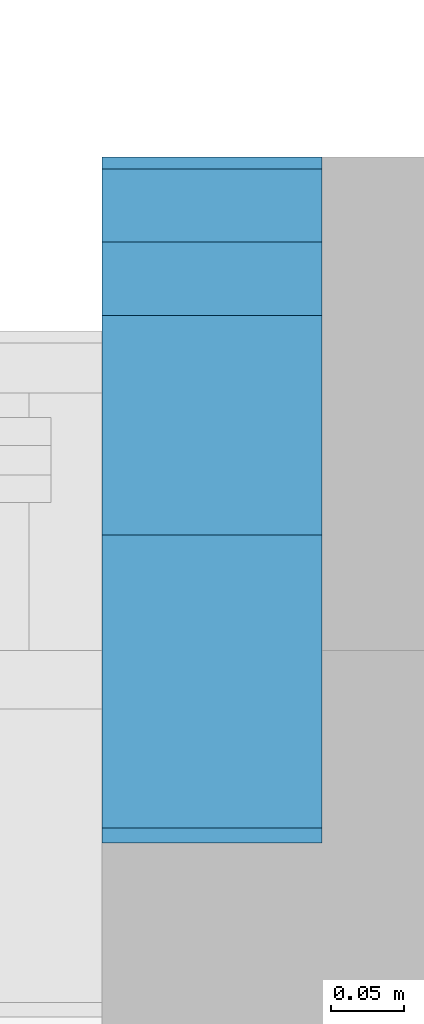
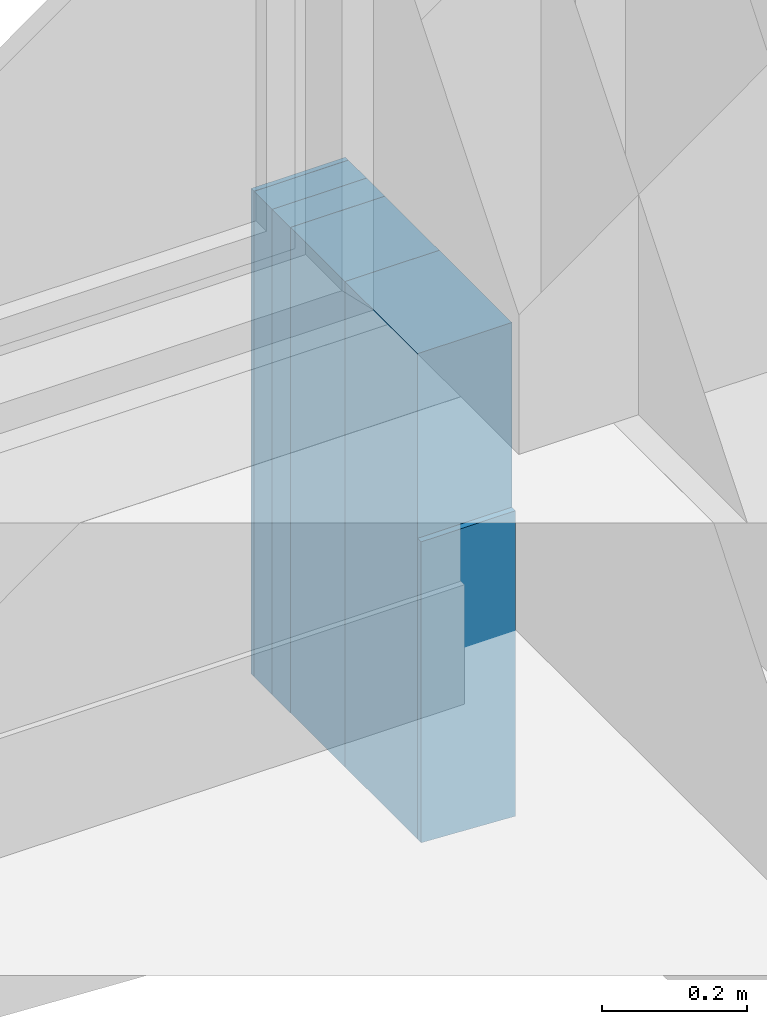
# One storey, part 74 of 89: 6 building element parts, 1 element without a shape of its own.
"""IFC2X3 building model written with IfcOpenShell, lengths in millimetres."""

from ifc_helpers import new_model, entity, si_unit, converted_unit, derived_unit, money_unit, direction, frame, origin_with_axes, place, context, subcontext, project, spatial, polyline, outline, extrude, boolean, faceted_brep, material, type_object, element, aggregate, save


model = new_model("IFC2X3")

# Units and contexts
model_context = context("Model", 3, precision=0.01, world=origin_with_axes(), true_north=direction((0.0, 1.0)))
body_context = subcontext(model_context, "Body", "Model", "MODEL_VIEW")
ifc_project = project(units=[si_unit("LENGTHUNIT", "METRE", prefix="MILLI"), si_unit("AREAUNIT", "SQUARE_METRE"), si_unit("VOLUMEUNIT", "CUBIC_METRE"), converted_unit("PLANEANGLEUNIT", "DEGREE", entity("IfcPlaneAngleMeasure", 0.0174532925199), si_unit("PLANEANGLEUNIT", "RADIAN"), dimensions=[0, 0, 0, 0, 0, 0, 0]), si_unit("SOLIDANGLEUNIT", "STERADIAN"), money_unit("EUR"), converted_unit("TIMEUNIT", "Year", entity("IfcTimeMeasure", 31556926.0), si_unit("TIMEUNIT", "SECOND"), dimensions=[0, 0, 1, 0, 0, 0, 0]), si_unit("MASSUNIT", "GRAM", prefix="KILO"), si_unit("THERMODYNAMICTEMPERATUREUNIT", "DEGREE_CELSIUS"), si_unit("LUMINOUSINTENSITYUNIT", "LUMEN"), si_unit("ENERGYUNIT", "JOULE", prefix="MEGA"), derived_unit("THERMALCONDUCTANCEUNIT", [(si_unit("POWERUNIT", "WATT"), 1), (si_unit("LENGTHUNIT", "METRE"), -1), (si_unit("THERMODYNAMICTEMPERATUREUNIT", "KELVIN"), -1)]), derived_unit("SPECIFICHEATCAPACITYUNIT", [(si_unit("ENERGYUNIT", "JOULE"), 1), (si_unit("MASSUNIT", "GRAM", prefix="KILO"), -1), (si_unit("THERMODYNAMICTEMPERATUREUNIT", "KELVIN"), -1)]), derived_unit("MASSDENSITYUNIT", [(si_unit("MASSUNIT", "GRAM", prefix="KILO"), 1), (si_unit("VOLUMEUNIT", "CUBIC_METRE"), -1)])], contexts=[model_context])

# Site, building, storey
site_placement = place(None, origin_with_axes())
site = spatial("IfcSite", under=ifc_project, at=site_placement, Name="Puškini 31, Narva", CompositionType="ELEMENT")
building_placement = place(site_placement, origin_with_axes())
building = spatial("IfcBuilding", under=site, at=building_placement, Name="Narva Riigigümnaasium", CompositionType="ELEMENT")
storey_placement = place(building_placement, frame((0.0, 0.0, -3300.0), z_axis=(0.0, 0.0, 1.0), x_axis=(1.0, 0.0, 0.0)))
storey = spatial("IfcBuildingStorey", under=building, at=storey_placement, Name="1.korrus -3.3", CompositionType="ELEMENT", Elevation=-3300.0)

# Wall, building element parts
wall_type = type_object("IfcWallType", Name="G-VS-01 468", PredefinedType="NOTDEFINED")
wall_placement = place(storey_placement, frame((54200.0000017, 254308.805854, -849.33771919), z_axis=(0.0, 0.0, 1.0), x_axis=(-1.0, 0.0, 0.0)))
wall = element("IfcWall", 1, at=wall_placement, inside=storey, type_object=wall_type, Name="Välissein")
ifc_material_1 = material(Name="Salto-siseviimistlus-seinad")
building_element_part_1_placement = place(wall_placement, origin_with_axes())
building_element_part_1 = element("IfcBuildingElementPart", 2, at=building_element_part_1_placement, material=ifc_material_1, Name="Salto-siseviimistlus-seinad", context=body_context, shape_type="CSG", body=[
    boolean("DIFFERENCE", boolean("DIFFERENCE", boolean("DIFFERENCE", boolean("DIFFERENCE", boolean("DIFFERENCE", boolean("DIFFERENCE", extrude(outline(polyline([(-257.999999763, 200.0), (399.99999993, 200.0), (399.99999993, 210.0), (-257.999999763, 210.0), (-257.999999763, 200.0)])), origin_with_axes(), (0.0, 0.0, 1.0), 849.33771919), faceted_brep([(399.99999993, 200.0, 33.8339195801), (250.000000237, 200.0, 26.1443924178), (250.000000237, 200.0, 539.33771919), (399.99999993, 200.0, 539.33771919), (399.99999993, 200.0, 849.33771919), (-257.999999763, 200.0, 849.33771919), (-257.999999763, 200.0, 0.0), (399.99999993, 200.0, 0.0), (399.99999993, 210.0, 33.8339195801), (250.000000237, 210.0, 26.1443924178), (250.000000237, 210.0, 539.33771919), (399.99999993, 210.0, 539.33771919), (399.99999993, 210.0, 849.33771919), (-257.999999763, 210.0, 849.33771919), (-257.999999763, 210.0, 0.0), (399.99999993, 210.0, 0.0)], [[[0, 1, 2, 3, 4, 5, 6, 7]], [[1, 0, 8, 9]], [[9, 10, 2, 1]], [[3, 2, 10, 11]], [[3, 11, 12, 4]], [[13, 5, 4, 12]], [[13, 14, 6, 5]], [[7, 6, 14, 15]], [[8, 0, 7, 15]], [[9, 8, 15, 14, 13, 12, 11, 10]]])), faceted_brep([(399.99999993, 0.0, 33.8339195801), (250.000000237, 0.0, 26.1443924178), (250.000000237, 0.0, 849.33771919), (-257.999999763, 0.0, 849.33771919), (-257.999999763, 0.0, 0.0), (399.99999993, 0.0, 0.0), (399.99999993, 200.0, 33.8339195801), (250.000000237, 200.0, 26.1443924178), (250.000000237, 200.0, 849.33771919), (-257.999999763, 200.0, 849.33771919), (-257.999999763, 200.0, 0.0), (399.99999993, 200.0, 0.0)], [[[0, 1, 2, 3, 4, 5]], [[1, 0, 6, 7]], [[8, 2, 1, 7]], [[2, 8, 9, 3]], [[9, 10, 4, 3]], [[5, 4, 10, 11]], [[6, 0, 5, 11]], [[7, 6, 11, 10, 9, 8]]])), faceted_brep([(399.99999993, -150.0, 33.8339195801), (250.000000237, -150.0, 26.1443924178), (250.000000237, -150.0, 849.33771919), (-257.999999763, -150.0, 849.33771919), (-257.999999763, -150.0, 0.0), (399.99999993, -150.0, 0.0), (399.99999993, 0.0, 33.8339195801), (250.000000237, 0.0, 26.1443924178), (250.000000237, 0.0, 849.33771919), (-257.999999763, 0.0, 849.33771919), (-257.999999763, 0.0, 0.0), (399.99999993, 0.0, 0.0)], [[[0, 1, 2, 3, 4, 5]], [[1, 0, 6, 7]], [[8, 2, 1, 7]], [[2, 8, 9, 3]], [[9, 10, 4, 3]], [[5, 4, 10, 11]], [[6, 0, 5, 11]], [[7, 6, 11, 10, 9, 8]]])), faceted_brep([(399.99999993, -200.0, 33.8339195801), (250.000000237, -200.0, 26.1443924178), (250.000000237, -200.0, 849.33771919), (-257.999999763, -200.0, 849.33771919), (-257.999999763, -200.0, 0.0), (399.99999993, -200.0, 0.0), (399.99999993, -150.0, 33.8339195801), (250.000000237, -150.0, 26.1443924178), (250.000000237, -150.0, 849.33771919), (-257.999999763, -150.0, 849.33771919), (-257.999999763, -150.0, 0.0), (399.99999993, -150.0, 0.0)], [[[0, 1, 2, 3, 4, 5]], [[1, 0, 6, 7]], [[8, 2, 1, 7]], [[2, 8, 9, 3]], [[9, 10, 4, 3]], [[5, 4, 10, 11]], [[6, 0, 5, 11]], [[7, 6, 11, 10, 9, 8]]])), faceted_brep([(399.99999993, -250.0, 33.8339195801), (250.000000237, -250.0, 26.1443924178), (250.000000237, -250.0, 849.33771919), (-257.999999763, -250.0, 849.33771919), (-257.999999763, -250.0, 0.0), (399.99999993, -250.0, 0.0), (399.99999993, -200.0, 33.8339195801), (250.000000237, -200.0, 26.1443924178), (250.000000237, -200.0, 849.33771919), (-257.999999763, -200.0, 849.33771919), (-257.999999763, -200.0, 0.0), (399.99999993, -200.0, 0.0)], [[[0, 1, 2, 3, 4, 5]], [[1, 0, 6, 7]], [[8, 2, 1, 7]], [[2, 8, 9, 3]], [[9, 10, 4, 3]], [[5, 4, 10, 11]], [[6, 0, 5, 11]], [[7, 6, 11, 10, 9, 8]]])), faceted_brep([(399.99999993, -258.0, 33.8339195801), (250.000000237, -258.0, 26.1443924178), (250.000000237, -258.0, 849.33771919), (-257.999999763, -258.0, 849.33771919), (-257.999999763, -258.0, 0.0), (399.99999993, -258.0, 0.0), (399.99999993, -250.0, 33.8339195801), (250.000000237, -250.0, 26.1443924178), (250.000000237, -250.0, 849.33771919), (-257.999999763, -250.0, 849.33771919), (-257.999999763, -250.0, 0.0), (399.99999993, -250.0, 0.0)], [[[0, 1, 2, 3, 4, 5]], [[1, 0, 6, 7]], [[8, 2, 1, 7]], [[2, 8, 9, 3]], [[9, 10, 4, 3]], [[5, 4, 10, 11]], [[6, 0, 5, 11]], [[7, 6, 11, 10, 9, 8]]])),
])
ifc_material_2 = material(Name="Betoon element")
building_element_part_2_placement = place(wall_placement, origin_with_axes())
building_element_part_2 = element("IfcBuildingElementPart", 3, at=building_element_part_2_placement, material=ifc_material_2, Name="Betoon element", context=body_context, shape_type="CSG", body=[
    boolean("DIFFERENCE", boolean("DIFFERENCE", boolean("DIFFERENCE", boolean("DIFFERENCE", boolean("DIFFERENCE", boolean("DIFFERENCE", extrude(outline(polyline([(-257.999999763, 0.0), (399.99999993, 0.0), (399.99999993, 200.0), (-257.999999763, 200.0), (-257.999999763, 0.0)])), origin_with_axes(), (0.0, 0.0, 1.0), 849.33771919), faceted_brep([(399.99999993, 200.0, 33.8339195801), (250.000000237, 200.0, 26.1443924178), (250.000000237, 200.0, 539.33771919), (399.99999993, 200.0, 539.33771919), (399.99999993, 200.0, 849.33771919), (-257.999999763, 200.0, 849.33771919), (-257.999999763, 200.0, 0.0), (399.99999993, 200.0, 0.0), (399.99999993, 210.0, 33.8339195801), (250.000000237, 210.0, 26.1443924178), (250.000000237, 210.0, 539.33771919), (399.99999993, 210.0, 539.33771919), (399.99999993, 210.0, 849.33771919), (-257.999999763, 210.0, 849.33771919), (-257.999999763, 210.0, 0.0), (399.99999993, 210.0, 0.0)], [[[0, 1, 2, 3, 4, 5, 6, 7]], [[1, 0, 8, 9]], [[9, 10, 2, 1]], [[3, 2, 10, 11]], [[3, 11, 12, 4]], [[13, 5, 4, 12]], [[13, 14, 6, 5]], [[7, 6, 14, 15]], [[8, 0, 7, 15]], [[9, 8, 15, 14, 13, 12, 11, 10]]])), faceted_brep([(399.99999993, 0.0, 33.8339195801), (250.000000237, 0.0, 26.1443924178), (250.000000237, 0.0, 849.33771919), (-257.999999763, 0.0, 849.33771919), (-257.999999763, 0.0, 0.0), (399.99999993, 0.0, 0.0), (399.99999993, 200.0, 33.8339195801), (250.000000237, 200.0, 26.1443924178), (250.000000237, 200.0, 849.33771919), (-257.999999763, 200.0, 849.33771919), (-257.999999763, 200.0, 0.0), (399.99999993, 200.0, 0.0)], [[[0, 1, 2, 3, 4, 5]], [[1, 0, 6, 7]], [[8, 2, 1, 7]], [[2, 8, 9, 3]], [[9, 10, 4, 3]], [[5, 4, 10, 11]], [[6, 0, 5, 11]], [[7, 6, 11, 10, 9, 8]]])), faceted_brep([(399.99999993, -150.0, 33.8339195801), (250.000000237, -150.0, 26.1443924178), (250.000000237, -150.0, 849.33771919), (-257.999999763, -150.0, 849.33771919), (-257.999999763, -150.0, 0.0), (399.99999993, -150.0, 0.0), (399.99999993, 0.0, 33.8339195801), (250.000000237, 0.0, 26.1443924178), (250.000000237, 0.0, 849.33771919), (-257.999999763, 0.0, 849.33771919), (-257.999999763, 0.0, 0.0), (399.99999993, 0.0, 0.0)], [[[0, 1, 2, 3, 4, 5]], [[1, 0, 6, 7]], [[8, 2, 1, 7]], [[2, 8, 9, 3]], [[9, 10, 4, 3]], [[5, 4, 10, 11]], [[6, 0, 5, 11]], [[7, 6, 11, 10, 9, 8]]])), faceted_brep([(399.99999993, -200.0, 33.8339195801), (250.000000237, -200.0, 26.1443924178), (250.000000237, -200.0, 849.33771919), (-257.999999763, -200.0, 849.33771919), (-257.999999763, -200.0, 0.0), (399.99999993, -200.0, 0.0), (399.99999993, -150.0, 33.8339195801), (250.000000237, -150.0, 26.1443924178), (250.000000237, -150.0, 849.33771919), (-257.999999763, -150.0, 849.33771919), (-257.999999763, -150.0, 0.0), (399.99999993, -150.0, 0.0)], [[[0, 1, 2, 3, 4, 5]], [[1, 0, 6, 7]], [[8, 2, 1, 7]], [[2, 8, 9, 3]], [[9, 10, 4, 3]], [[5, 4, 10, 11]], [[6, 0, 5, 11]], [[7, 6, 11, 10, 9, 8]]])), faceted_brep([(399.99999993, -250.0, 33.8339195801), (250.000000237, -250.0, 26.1443924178), (250.000000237, -250.0, 849.33771919), (-257.999999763, -250.0, 849.33771919), (-257.999999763, -250.0, 0.0), (399.99999993, -250.0, 0.0), (399.99999993, -200.0, 33.8339195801), (250.000000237, -200.0, 26.1443924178), (250.000000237, -200.0, 849.33771919), (-257.999999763, -200.0, 849.33771919), (-257.999999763, -200.0, 0.0), (399.99999993, -200.0, 0.0)], [[[0, 1, 2, 3, 4, 5]], [[1, 0, 6, 7]], [[8, 2, 1, 7]], [[2, 8, 9, 3]], [[9, 10, 4, 3]], [[5, 4, 10, 11]], [[6, 0, 5, 11]], [[7, 6, 11, 10, 9, 8]]])), faceted_brep([(399.99999993, -258.0, 33.8339195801), (250.000000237, -258.0, 26.1443924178), (250.000000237, -258.0, 849.33771919), (-257.999999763, -258.0, 849.33771919), (-257.999999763, -258.0, 0.0), (399.99999993, -258.0, 0.0), (399.99999993, -250.0, 33.8339195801), (250.000000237, -250.0, 26.1443924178), (250.000000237, -250.0, 849.33771919), (-257.999999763, -250.0, 849.33771919), (-257.999999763, -250.0, 0.0), (399.99999993, -250.0, 0.0)], [[[0, 1, 2, 3, 4, 5]], [[1, 0, 6, 7]], [[8, 2, 1, 7]], [[2, 8, 9, 3]], [[9, 10, 4, 3]], [[5, 4, 10, 11]], [[6, 0, 5, 11]], [[7, 6, 11, 10, 9, 8]]])),
])
ifc_material_3 = material(Name="Salto-PIR soojustus")
building_element_part_3_placement = place(wall_placement, origin_with_axes())
building_element_part_3 = element("IfcBuildingElementPart", 4, at=building_element_part_3_placement, material=ifc_material_3, Name="Salto-PIR soojustus", context=body_context, shape_type="CSG", body=[
    boolean("DIFFERENCE", boolean("DIFFERENCE", boolean("DIFFERENCE", boolean("DIFFERENCE", boolean("DIFFERENCE", boolean("DIFFERENCE", extrude(outline(polyline([(-257.999999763, -150.0), (399.99999993, -150.0), (399.99999993, 0.0), (-257.999999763, 0.0), (-257.999999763, -150.0)])), origin_with_axes(), (0.0, 0.0, 1.0), 849.33771919), faceted_brep([(399.99999993, 200.0, 33.8339195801), (250.000000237, 200.0, 26.1443924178), (250.000000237, 200.0, 539.33771919), (399.99999993, 200.0, 539.33771919), (399.99999993, 200.0, 849.33771919), (-257.999999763, 200.0, 849.33771919), (-257.999999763, 200.0, 0.0), (399.99999993, 200.0, 0.0), (399.99999993, 210.0, 33.8339195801), (250.000000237, 210.0, 26.1443924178), (250.000000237, 210.0, 539.33771919), (399.99999993, 210.0, 539.33771919), (399.99999993, 210.0, 849.33771919), (-257.999999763, 210.0, 849.33771919), (-257.999999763, 210.0, 0.0), (399.99999993, 210.0, 0.0)], [[[0, 1, 2, 3, 4, 5, 6, 7]], [[1, 0, 8, 9]], [[9, 10, 2, 1]], [[3, 2, 10, 11]], [[3, 11, 12, 4]], [[13, 5, 4, 12]], [[13, 14, 6, 5]], [[7, 6, 14, 15]], [[8, 0, 7, 15]], [[9, 8, 15, 14, 13, 12, 11, 10]]])), faceted_brep([(399.99999993, 0.0, 33.8339195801), (250.000000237, 0.0, 26.1443924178), (250.000000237, 0.0, 849.33771919), (-257.999999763, 0.0, 849.33771919), (-257.999999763, 0.0, 0.0), (399.99999993, 0.0, 0.0), (399.99999993, 200.0, 33.8339195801), (250.000000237, 200.0, 26.1443924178), (250.000000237, 200.0, 849.33771919), (-257.999999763, 200.0, 849.33771919), (-257.999999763, 200.0, 0.0), (399.99999993, 200.0, 0.0)], [[[0, 1, 2, 3, 4, 5]], [[1, 0, 6, 7]], [[8, 2, 1, 7]], [[2, 8, 9, 3]], [[9, 10, 4, 3]], [[5, 4, 10, 11]], [[6, 0, 5, 11]], [[7, 6, 11, 10, 9, 8]]])), faceted_brep([(399.99999993, -150.0, 33.8339195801), (250.000000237, -150.0, 26.1443924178), (250.000000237, -150.0, 849.33771919), (-257.999999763, -150.0, 849.33771919), (-257.999999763, -150.0, 0.0), (399.99999993, -150.0, 0.0), (399.99999993, 0.0, 33.8339195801), (250.000000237, 0.0, 26.1443924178), (250.000000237, 0.0, 849.33771919), (-257.999999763, 0.0, 849.33771919), (-257.999999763, 0.0, 0.0), (399.99999993, 0.0, 0.0)], [[[0, 1, 2, 3, 4, 5]], [[1, 0, 6, 7]], [[8, 2, 1, 7]], [[2, 8, 9, 3]], [[9, 10, 4, 3]], [[5, 4, 10, 11]], [[6, 0, 5, 11]], [[7, 6, 11, 10, 9, 8]]])), faceted_brep([(399.99999993, -200.0, 33.8339195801), (250.000000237, -200.0, 26.1443924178), (250.000000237, -200.0, 849.33771919), (-257.999999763, -200.0, 849.33771919), (-257.999999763, -200.0, 0.0), (399.99999993, -200.0, 0.0), (399.99999993, -150.0, 33.8339195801), (250.000000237, -150.0, 26.1443924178), (250.000000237, -150.0, 849.33771919), (-257.999999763, -150.0, 849.33771919), (-257.999999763, -150.0, 0.0), (399.99999993, -150.0, 0.0)], [[[0, 1, 2, 3, 4, 5]], [[1, 0, 6, 7]], [[8, 2, 1, 7]], [[2, 8, 9, 3]], [[9, 10, 4, 3]], [[5, 4, 10, 11]], [[6, 0, 5, 11]], [[7, 6, 11, 10, 9, 8]]])), faceted_brep([(399.99999993, -250.0, 33.8339195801), (250.000000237, -250.0, 26.1443924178), (250.000000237, -250.0, 849.33771919), (-257.999999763, -250.0, 849.33771919), (-257.999999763, -250.0, 0.0), (399.99999993, -250.0, 0.0), (399.99999993, -200.0, 33.8339195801), (250.000000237, -200.0, 26.1443924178), (250.000000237, -200.0, 849.33771919), (-257.999999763, -200.0, 849.33771919), (-257.999999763, -200.0, 0.0), (399.99999993, -200.0, 0.0)], [[[0, 1, 2, 3, 4, 5]], [[1, 0, 6, 7]], [[8, 2, 1, 7]], [[2, 8, 9, 3]], [[9, 10, 4, 3]], [[5, 4, 10, 11]], [[6, 0, 5, 11]], [[7, 6, 11, 10, 9, 8]]])), faceted_brep([(399.99999993, -258.0, 33.8339195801), (250.000000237, -258.0, 26.1443924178), (250.000000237, -258.0, 849.33771919), (-257.999999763, -258.0, 849.33771919), (-257.999999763, -258.0, 0.0), (399.99999993, -258.0, 0.0), (399.99999993, -250.0, 33.8339195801), (250.000000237, -250.0, 26.1443924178), (250.000000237, -250.0, 849.33771919), (-257.999999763, -250.0, 849.33771919), (-257.999999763, -250.0, 0.0), (399.99999993, -250.0, 0.0)], [[[0, 1, 2, 3, 4, 5]], [[1, 0, 6, 7]], [[8, 2, 1, 7]], [[2, 8, 9, 3]], [[9, 10, 4, 3]], [[5, 4, 10, 11]], [[6, 0, 5, 11]], [[7, 6, 11, 10, 9, 8]]])),
])
building_element_part_4_placement = place(wall_placement, origin_with_axes())
building_element_part_4 = element("IfcBuildingElementPart", 5, at=building_element_part_4_placement, material=ifc_material_3, Name="Salto-PIR soojustus", context=body_context, shape_type="CSG", body=[
    boolean("DIFFERENCE", boolean("DIFFERENCE", boolean("DIFFERENCE", boolean("DIFFERENCE", boolean("DIFFERENCE", boolean("DIFFERENCE", extrude(outline(polyline([(-257.999999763, -200.0), (399.99999993, -200.0), (399.99999993, -150.0), (-257.999999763, -150.0), (-257.999999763, -200.0)])), origin_with_axes(), (0.0, 0.0, 1.0), 849.33771919), faceted_brep([(399.99999993, 200.0, 33.8339195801), (250.000000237, 200.0, 26.1443924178), (250.000000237, 200.0, 539.33771919), (399.99999993, 200.0, 539.33771919), (399.99999993, 200.0, 849.33771919), (-257.999999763, 200.0, 849.33771919), (-257.999999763, 200.0, 0.0), (399.99999993, 200.0, 0.0), (399.99999993, 210.0, 33.8339195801), (250.000000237, 210.0, 26.1443924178), (250.000000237, 210.0, 539.33771919), (399.99999993, 210.0, 539.33771919), (399.99999993, 210.0, 849.33771919), (-257.999999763, 210.0, 849.33771919), (-257.999999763, 210.0, 0.0), (399.99999993, 210.0, 0.0)], [[[0, 1, 2, 3, 4, 5, 6, 7]], [[1, 0, 8, 9]], [[9, 10, 2, 1]], [[3, 2, 10, 11]], [[3, 11, 12, 4]], [[13, 5, 4, 12]], [[13, 14, 6, 5]], [[7, 6, 14, 15]], [[8, 0, 7, 15]], [[9, 8, 15, 14, 13, 12, 11, 10]]])), faceted_brep([(399.99999993, 0.0, 33.8339195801), (250.000000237, 0.0, 26.1443924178), (250.000000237, 0.0, 849.33771919), (-257.999999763, 0.0, 849.33771919), (-257.999999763, 0.0, 0.0), (399.99999993, 0.0, 0.0), (399.99999993, 200.0, 33.8339195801), (250.000000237, 200.0, 26.1443924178), (250.000000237, 200.0, 849.33771919), (-257.999999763, 200.0, 849.33771919), (-257.999999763, 200.0, 0.0), (399.99999993, 200.0, 0.0)], [[[0, 1, 2, 3, 4, 5]], [[1, 0, 6, 7]], [[8, 2, 1, 7]], [[2, 8, 9, 3]], [[9, 10, 4, 3]], [[5, 4, 10, 11]], [[6, 0, 5, 11]], [[7, 6, 11, 10, 9, 8]]])), faceted_brep([(399.99999993, -150.0, 33.8339195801), (250.000000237, -150.0, 26.1443924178), (250.000000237, -150.0, 849.33771919), (-257.999999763, -150.0, 849.33771919), (-257.999999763, -150.0, 0.0), (399.99999993, -150.0, 0.0), (399.99999993, 0.0, 33.8339195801), (250.000000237, 0.0, 26.1443924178), (250.000000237, 0.0, 849.33771919), (-257.999999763, 0.0, 849.33771919), (-257.999999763, 0.0, 0.0), (399.99999993, 0.0, 0.0)], [[[0, 1, 2, 3, 4, 5]], [[1, 0, 6, 7]], [[8, 2, 1, 7]], [[2, 8, 9, 3]], [[9, 10, 4, 3]], [[5, 4, 10, 11]], [[6, 0, 5, 11]], [[7, 6, 11, 10, 9, 8]]])), faceted_brep([(399.99999993, -200.0, 33.8339195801), (250.000000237, -200.0, 26.1443924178), (250.000000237, -200.0, 849.33771919), (-257.999999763, -200.0, 849.33771919), (-257.999999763, -200.0, 0.0), (399.99999993, -200.0, 0.0), (399.99999993, -150.0, 33.8339195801), (250.000000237, -150.0, 26.1443924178), (250.000000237, -150.0, 849.33771919), (-257.999999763, -150.0, 849.33771919), (-257.999999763, -150.0, 0.0), (399.99999993, -150.0, 0.0)], [[[0, 1, 2, 3, 4, 5]], [[1, 0, 6, 7]], [[8, 2, 1, 7]], [[2, 8, 9, 3]], [[9, 10, 4, 3]], [[5, 4, 10, 11]], [[6, 0, 5, 11]], [[7, 6, 11, 10, 9, 8]]])), faceted_brep([(399.99999993, -250.0, 33.8339195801), (250.000000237, -250.0, 26.1443924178), (250.000000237, -250.0, 849.33771919), (-257.999999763, -250.0, 849.33771919), (-257.999999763, -250.0, 0.0), (399.99999993, -250.0, 0.0), (399.99999993, -200.0, 33.8339195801), (250.000000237, -200.0, 26.1443924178), (250.000000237, -200.0, 849.33771919), (-257.999999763, -200.0, 849.33771919), (-257.999999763, -200.0, 0.0), (399.99999993, -200.0, 0.0)], [[[0, 1, 2, 3, 4, 5]], [[1, 0, 6, 7]], [[8, 2, 1, 7]], [[2, 8, 9, 3]], [[9, 10, 4, 3]], [[5, 4, 10, 11]], [[6, 0, 5, 11]], [[7, 6, 11, 10, 9, 8]]])), faceted_brep([(399.99999993, -258.0, 33.8339195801), (250.000000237, -258.0, 26.1443924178), (250.000000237, -258.0, 849.33771919), (-257.999999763, -258.0, 849.33771919), (-257.999999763, -258.0, 0.0), (399.99999993, -258.0, 0.0), (399.99999993, -250.0, 33.8339195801), (250.000000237, -250.0, 26.1443924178), (250.000000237, -250.0, 849.33771919), (-257.999999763, -250.0, 849.33771919), (-257.999999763, -250.0, 0.0), (399.99999993, -250.0, 0.0)], [[[0, 1, 2, 3, 4, 5]], [[1, 0, 6, 7]], [[8, 2, 1, 7]], [[2, 8, 9, 3]], [[9, 10, 4, 3]], [[5, 4, 10, 11]], [[6, 0, 5, 11]], [[7, 6, 11, 10, 9, 8]]])),
])
ifc_material_4 = material(Name="Salto-roovitus")
building_element_part_5_placement = place(wall_placement, origin_with_axes())
building_element_part_5 = element("IfcBuildingElementPart", 6, at=building_element_part_5_placement, material=ifc_material_4, Name="Salto-roovitus", context=body_context, shape_type="CSG", body=[
    boolean("DIFFERENCE", boolean("DIFFERENCE", boolean("DIFFERENCE", boolean("DIFFERENCE", boolean("DIFFERENCE", boolean("DIFFERENCE", extrude(outline(polyline([(-257.999999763, -250.0), (399.99999993, -250.0), (399.99999993, -200.0), (-257.999999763, -200.0), (-257.999999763, -250.0)])), origin_with_axes(), (0.0, 0.0, 1.0), 849.33771919), faceted_brep([(399.99999993, 200.0, 33.8339195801), (250.000000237, 200.0, 26.1443924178), (250.000000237, 200.0, 539.33771919), (399.99999993, 200.0, 539.33771919), (399.99999993, 200.0, 849.33771919), (-257.999999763, 200.0, 849.33771919), (-257.999999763, 200.0, 0.0), (399.99999993, 200.0, 0.0), (399.99999993, 210.0, 33.8339195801), (250.000000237, 210.0, 26.1443924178), (250.000000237, 210.0, 539.33771919), (399.99999993, 210.0, 539.33771919), (399.99999993, 210.0, 849.33771919), (-257.999999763, 210.0, 849.33771919), (-257.999999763, 210.0, 0.0), (399.99999993, 210.0, 0.0)], [[[0, 1, 2, 3, 4, 5, 6, 7]], [[1, 0, 8, 9]], [[9, 10, 2, 1]], [[3, 2, 10, 11]], [[3, 11, 12, 4]], [[13, 5, 4, 12]], [[13, 14, 6, 5]], [[7, 6, 14, 15]], [[8, 0, 7, 15]], [[9, 8, 15, 14, 13, 12, 11, 10]]])), faceted_brep([(399.99999993, 0.0, 33.8339195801), (250.000000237, 0.0, 26.1443924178), (250.000000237, 0.0, 849.33771919), (-257.999999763, 0.0, 849.33771919), (-257.999999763, 0.0, 0.0), (399.99999993, 0.0, 0.0), (399.99999993, 200.0, 33.8339195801), (250.000000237, 200.0, 26.1443924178), (250.000000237, 200.0, 849.33771919), (-257.999999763, 200.0, 849.33771919), (-257.999999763, 200.0, 0.0), (399.99999993, 200.0, 0.0)], [[[0, 1, 2, 3, 4, 5]], [[1, 0, 6, 7]], [[8, 2, 1, 7]], [[2, 8, 9, 3]], [[9, 10, 4, 3]], [[5, 4, 10, 11]], [[6, 0, 5, 11]], [[7, 6, 11, 10, 9, 8]]])), faceted_brep([(399.99999993, -150.0, 33.8339195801), (250.000000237, -150.0, 26.1443924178), (250.000000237, -150.0, 849.33771919), (-257.999999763, -150.0, 849.33771919), (-257.999999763, -150.0, 0.0), (399.99999993, -150.0, 0.0), (399.99999993, 0.0, 33.8339195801), (250.000000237, 0.0, 26.1443924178), (250.000000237, 0.0, 849.33771919), (-257.999999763, 0.0, 849.33771919), (-257.999999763, 0.0, 0.0), (399.99999993, 0.0, 0.0)], [[[0, 1, 2, 3, 4, 5]], [[1, 0, 6, 7]], [[8, 2, 1, 7]], [[2, 8, 9, 3]], [[9, 10, 4, 3]], [[5, 4, 10, 11]], [[6, 0, 5, 11]], [[7, 6, 11, 10, 9, 8]]])), faceted_brep([(399.99999993, -200.0, 33.8339195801), (250.000000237, -200.0, 26.1443924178), (250.000000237, -200.0, 849.33771919), (-257.999999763, -200.0, 849.33771919), (-257.999999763, -200.0, 0.0), (399.99999993, -200.0, 0.0), (399.99999993, -150.0, 33.8339195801), (250.000000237, -150.0, 26.1443924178), (250.000000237, -150.0, 849.33771919), (-257.999999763, -150.0, 849.33771919), (-257.999999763, -150.0, 0.0), (399.99999993, -150.0, 0.0)], [[[0, 1, 2, 3, 4, 5]], [[1, 0, 6, 7]], [[8, 2, 1, 7]], [[2, 8, 9, 3]], [[9, 10, 4, 3]], [[5, 4, 10, 11]], [[6, 0, 5, 11]], [[7, 6, 11, 10, 9, 8]]])), faceted_brep([(399.99999993, -250.0, 33.8339195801), (250.000000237, -250.0, 26.1443924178), (250.000000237, -250.0, 849.33771919), (-257.999999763, -250.0, 849.33771919), (-257.999999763, -250.0, 0.0), (399.99999993, -250.0, 0.0), (399.99999993, -200.0, 33.8339195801), (250.000000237, -200.0, 26.1443924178), (250.000000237, -200.0, 849.33771919), (-257.999999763, -200.0, 849.33771919), (-257.999999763, -200.0, 0.0), (399.99999993, -200.0, 0.0)], [[[0, 1, 2, 3, 4, 5]], [[1, 0, 6, 7]], [[8, 2, 1, 7]], [[2, 8, 9, 3]], [[9, 10, 4, 3]], [[5, 4, 10, 11]], [[6, 0, 5, 11]], [[7, 6, 11, 10, 9, 8]]])), faceted_brep([(399.99999993, -258.0, 33.8339195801), (250.000000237, -258.0, 26.1443924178), (250.000000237, -258.0, 849.33771919), (-257.999999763, -258.0, 849.33771919), (-257.999999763, -258.0, 0.0), (399.99999993, -258.0, 0.0), (399.99999993, -250.0, 33.8339195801), (250.000000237, -250.0, 26.1443924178), (250.000000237, -250.0, 849.33771919), (-257.999999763, -250.0, 849.33771919), (-257.999999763, -250.0, 0.0), (399.99999993, -250.0, 0.0)], [[[0, 1, 2, 3, 4, 5]], [[1, 0, 6, 7]], [[8, 2, 1, 7]], [[2, 8, 9, 3]], [[9, 10, 4, 3]], [[5, 4, 10, 11]], [[6, 0, 5, 11]], [[7, 6, 11, 10, 9, 8]]])),
])
ifc_material_5 = material(Name="fassaadiplaat")
building_element_part_6_placement = place(wall_placement, origin_with_axes())
building_element_part_6 = element("IfcBuildingElementPart", 7, at=building_element_part_6_placement, material=ifc_material_5, Name="fassaadiplaat", context=body_context, shape_type="CSG", body=[
    boolean("DIFFERENCE", boolean("DIFFERENCE", boolean("DIFFERENCE", boolean("DIFFERENCE", boolean("DIFFERENCE", boolean("DIFFERENCE", extrude(outline(polyline([(-257.999999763, -258.0), (399.99999993, -258.0), (399.99999993, -250.0), (-257.999999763, -250.0), (-257.999999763, -258.0)])), origin_with_axes(), (0.0, 0.0, 1.0), 849.33771919), faceted_brep([(399.99999993, 200.0, 33.8339195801), (250.000000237, 200.0, 26.1443924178), (250.000000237, 200.0, 539.33771919), (399.99999993, 200.0, 539.33771919), (399.99999993, 200.0, 849.33771919), (-257.999999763, 200.0, 849.33771919), (-257.999999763, 200.0, 0.0), (399.99999993, 200.0, 0.0), (399.99999993, 210.0, 33.8339195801), (250.000000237, 210.0, 26.1443924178), (250.000000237, 210.0, 539.33771919), (399.99999993, 210.0, 539.33771919), (399.99999993, 210.0, 849.33771919), (-257.999999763, 210.0, 849.33771919), (-257.999999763, 210.0, 0.0), (399.99999993, 210.0, 0.0)], [[[0, 1, 2, 3, 4, 5, 6, 7]], [[1, 0, 8, 9]], [[9, 10, 2, 1]], [[3, 2, 10, 11]], [[3, 11, 12, 4]], [[13, 5, 4, 12]], [[13, 14, 6, 5]], [[7, 6, 14, 15]], [[8, 0, 7, 15]], [[9, 8, 15, 14, 13, 12, 11, 10]]])), faceted_brep([(399.99999993, 0.0, 33.8339195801), (250.000000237, 0.0, 26.1443924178), (250.000000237, 0.0, 849.33771919), (-257.999999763, 0.0, 849.33771919), (-257.999999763, 0.0, 0.0), (399.99999993, 0.0, 0.0), (399.99999993, 200.0, 33.8339195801), (250.000000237, 200.0, 26.1443924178), (250.000000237, 200.0, 849.33771919), (-257.999999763, 200.0, 849.33771919), (-257.999999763, 200.0, 0.0), (399.99999993, 200.0, 0.0)], [[[0, 1, 2, 3, 4, 5]], [[1, 0, 6, 7]], [[8, 2, 1, 7]], [[2, 8, 9, 3]], [[9, 10, 4, 3]], [[5, 4, 10, 11]], [[6, 0, 5, 11]], [[7, 6, 11, 10, 9, 8]]])), faceted_brep([(399.99999993, -150.0, 33.8339195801), (250.000000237, -150.0, 26.1443924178), (250.000000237, -150.0, 849.33771919), (-257.999999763, -150.0, 849.33771919), (-257.999999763, -150.0, 0.0), (399.99999993, -150.0, 0.0), (399.99999993, 0.0, 33.8339195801), (250.000000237, 0.0, 26.1443924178), (250.000000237, 0.0, 849.33771919), (-257.999999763, 0.0, 849.33771919), (-257.999999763, 0.0, 0.0), (399.99999993, 0.0, 0.0)], [[[0, 1, 2, 3, 4, 5]], [[1, 0, 6, 7]], [[8, 2, 1, 7]], [[2, 8, 9, 3]], [[9, 10, 4, 3]], [[5, 4, 10, 11]], [[6, 0, 5, 11]], [[7, 6, 11, 10, 9, 8]]])), faceted_brep([(399.99999993, -200.0, 33.8339195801), (250.000000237, -200.0, 26.1443924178), (250.000000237, -200.0, 849.33771919), (-257.999999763, -200.0, 849.33771919), (-257.999999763, -200.0, 0.0), (399.99999993, -200.0, 0.0), (399.99999993, -150.0, 33.8339195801), (250.000000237, -150.0, 26.1443924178), (250.000000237, -150.0, 849.33771919), (-257.999999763, -150.0, 849.33771919), (-257.999999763, -150.0, 0.0), (399.99999993, -150.0, 0.0)], [[[0, 1, 2, 3, 4, 5]], [[1, 0, 6, 7]], [[8, 2, 1, 7]], [[2, 8, 9, 3]], [[9, 10, 4, 3]], [[5, 4, 10, 11]], [[6, 0, 5, 11]], [[7, 6, 11, 10, 9, 8]]])), faceted_brep([(399.99999993, -250.0, 33.8339195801), (250.000000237, -250.0, 26.1443924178), (250.000000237, -250.0, 849.33771919), (-257.999999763, -250.0, 849.33771919), (-257.999999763, -250.0, 0.0), (399.99999993, -250.0, 0.0), (399.99999993, -200.0, 33.8339195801), (250.000000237, -200.0, 26.1443924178), (250.000000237, -200.0, 849.33771919), (-257.999999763, -200.0, 849.33771919), (-257.999999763, -200.0, 0.0), (399.99999993, -200.0, 0.0)], [[[0, 1, 2, 3, 4, 5]], [[1, 0, 6, 7]], [[8, 2, 1, 7]], [[2, 8, 9, 3]], [[9, 10, 4, 3]], [[5, 4, 10, 11]], [[6, 0, 5, 11]], [[7, 6, 11, 10, 9, 8]]])), faceted_brep([(399.99999993, -258.0, 33.8339195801), (250.000000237, -258.0, 26.1443924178), (250.000000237, -258.0, 849.33771919), (-257.999999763, -258.0, 849.33771919), (-257.999999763, -258.0, 0.0), (399.99999993, -258.0, 0.0), (399.99999993, -250.0, 33.8339195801), (250.000000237, -250.0, 26.1443924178), (250.000000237, -250.0, 849.33771919), (-257.999999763, -250.0, 849.33771919), (-257.999999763, -250.0, 0.0), (399.99999993, -250.0, 0.0)], [[[0, 1, 2, 3, 4, 5]], [[1, 0, 6, 7]], [[8, 2, 1, 7]], [[2, 8, 9, 3]], [[9, 10, 4, 3]], [[5, 4, 10, 11]], [[6, 0, 5, 11]], [[7, 6, 11, 10, 9, 8]]])),
])
aggregate(wall, [building_element_part_1, building_element_part_2, building_element_part_3, building_element_part_4, building_element_part_5, building_element_part_6])

save(model, "model.ifc")
